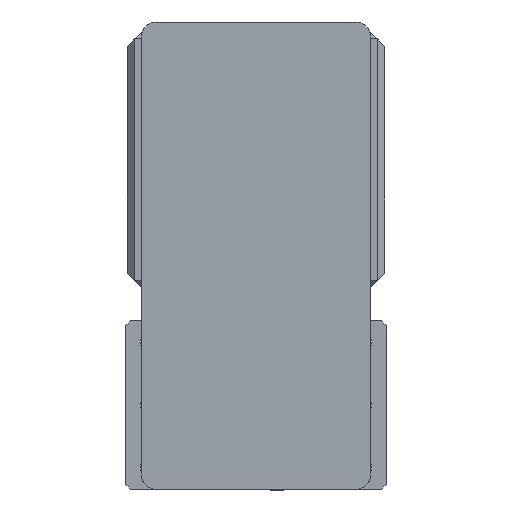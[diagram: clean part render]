
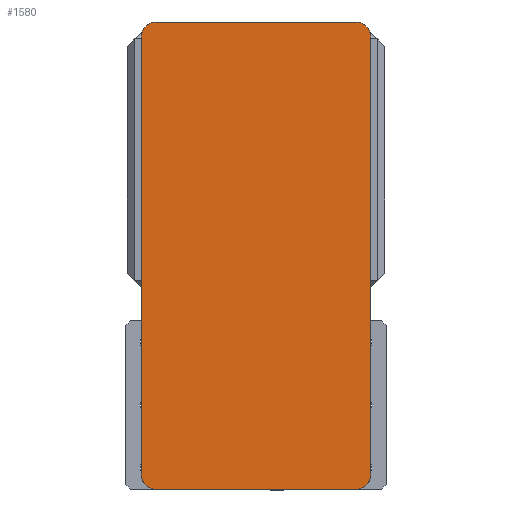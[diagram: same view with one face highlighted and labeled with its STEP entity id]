
A CAD part, left-side view. The second image highlights one B-rep face of the part: STEP entity #1580.
In plain terms, the highlighted planar face has unit normal (-1, 0, 0) as drawn and (0, 0, 1) by its records, which use the part's own axes.
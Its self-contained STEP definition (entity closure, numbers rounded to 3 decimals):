
#8 = CARTESIAN_POINT ( 'NONE',  ( 75., -142.5, 105. ) ) ;
#170 = ORIENTED_EDGE ( 'NONE', *, *, #3356, .T. ) ;
#289 = ORIENTED_EDGE ( 'NONE', *, *, #944, .T. ) ;
#308 = EDGE_LOOP ( 'NONE', ( #362, #9702, #3086, #5187, #289, #6371, #170, #8271 ) ) ;
#362 = ORIENTED_EDGE ( 'NONE', *, *, #6381, .T. ) ;
#519 = VERTEX_POINT ( 'NONE', #2429 ) ;
#634 = CARTESIAN_POINT ( 'NONE',  ( 75., 142.5, 105. ) ) ;
#648 = VERTEX_POINT ( 'NONE', #3884 ) ;
#845 = FACE_OUTER_BOUND ( 'NONE', #308, .T. ) ;
#944 = EDGE_CURVE ( 'NONE', #10324, #519, #9099, .T. ) ;
#1012 = LINE ( 'NONE', #7469, #7432 ) ;
#1144 = VERTEX_POINT ( 'NONE', #8 ) ;
#1231 = CARTESIAN_POINT ( 'NONE',  ( -75., 152.5, 105. ) ) ;
#1497 = CARTESIAN_POINT ( 'NONE',  ( -75., -152.5, 105. ) ) ;
#1536 = CIRCLE ( 'NONE', #7456, 10. ) ;
#1580 = ADVANCED_FACE ( 'NONE', ( #845 ), #2120, .T. ) ;
#1590 = DIRECTION ( 'NONE',  ( 0., 1., 0. ) ) ;
#1915 = AXIS2_PLACEMENT_3D ( 'NONE', #7586, #2602, #8388 ) ;
#1977 = VERTEX_POINT ( 'NONE', #3001 ) ;
#2120 = PLANE ( 'NONE',  #8151 ) ;
#2395 = VERTEX_POINT ( 'NONE', #7777 ) ;
#2429 = CARTESIAN_POINT ( 'NONE',  ( -65., 152.5, 105. ) ) ;
#2542 = CIRCLE ( 'NONE', #10291, 10. ) ;
#2602 = DIRECTION ( 'NONE',  ( 0., 0., 1. ) ) ;
#2984 = DIRECTION ( 'NONE',  ( 0., 0., 1. ) ) ;
#3001 = CARTESIAN_POINT ( 'NONE',  ( 65., -152.5, 105. ) ) ;
#3066 = CARTESIAN_POINT ( 'NONE',  ( 65., 152.5, 105. ) ) ;
#3086 = ORIENTED_EDGE ( 'NONE', *, *, #9272, .T. ) ;
#3190 = DIRECTION ( 'NONE',  ( 0., 0., 1. ) ) ;
#3356 = EDGE_CURVE ( 'NONE', #2395, #648, #7435, .T. ) ;
#3855 = DIRECTION ( 'NONE',  ( 1., 0., 0. ) ) ;
#3884 = CARTESIAN_POINT ( 'NONE',  ( -75., -142.5, 105. ) ) ;
#3895 = CARTESIAN_POINT ( 'NONE',  ( 65., 142.5, 105. ) ) ;
#3944 = DIRECTION ( 'NONE',  ( 0., 0., 1. ) ) ;
#4289 = DIRECTION ( 'NONE',  ( -1., 0., 0. ) ) ;
#4704 = AXIS2_PLACEMENT_3D ( 'NONE', #3895, #9670, #4751 ) ;
#4751 = DIRECTION ( 'NONE',  ( 1., 0., 0. ) ) ;
#5187 = ORIENTED_EDGE ( 'NONE', *, *, #8472, .T. ) ;
#5243 = VECTOR ( 'NONE', #8764, 1000. ) ;
#5698 = VECTOR ( 'NONE', #9853, 1000. ) ;
#5936 = VERTEX_POINT ( 'NONE', #7721 ) ;
#6239 = EDGE_CURVE ( 'NONE', #648, #5936, #2542, .T. ) ;
#6371 = ORIENTED_EDGE ( 'NONE', *, *, #8570, .T. ) ;
#6381 = EDGE_CURVE ( 'NONE', #5936, #1977, #10076, .T. ) ;
#6906 = VECTOR ( 'NONE', #4289, 1000. ) ;
#7432 = VECTOR ( 'NONE', #1590, 1000. ) ;
#7435 = LINE ( 'NONE', #1231, #5243 ) ;
#7456 = AXIS2_PLACEMENT_3D ( 'NONE', #8125, #3190, #8993 ) ;
#7469 = CARTESIAN_POINT ( 'NONE',  ( 75., 152.5, 105. ) ) ;
#7586 = CARTESIAN_POINT ( 'NONE',  ( 65., -142.5, 105. ) ) ;
#7593 = EDGE_CURVE ( 'NONE', #1977, #1144, #10171, .T. ) ;
#7601 = CARTESIAN_POINT ( 'NONE',  ( -75., 152.5, 105. ) ) ;
#7721 = CARTESIAN_POINT ( 'NONE',  ( -65., -152.5, 105. ) ) ;
#7777 = CARTESIAN_POINT ( 'NONE',  ( -75., 142.5, 105. ) ) ;
#8125 = CARTESIAN_POINT ( 'NONE',  ( -65., 142.5, 105. ) ) ;
#8151 = AXIS2_PLACEMENT_3D ( 'NONE', #9581, #2984, #3855 ) ;
#8271 = ORIENTED_EDGE ( 'NONE', *, *, #6239, .T. ) ;
#8388 = DIRECTION ( 'NONE',  ( 1., 0., 0. ) ) ;
#8472 = EDGE_CURVE ( 'NONE', #10411, #10324, #8992, .T. ) ;
#8570 = EDGE_CURVE ( 'NONE', #519, #2395, #1536, .T. ) ;
#8764 = DIRECTION ( 'NONE',  ( 0., -1., 0. ) ) ;
#8894 = CARTESIAN_POINT ( 'NONE',  ( -65., -142.5, 105. ) ) ;
#8992 = CIRCLE ( 'NONE', #4704, 10. ) ;
#8993 = DIRECTION ( 'NONE',  ( 1., 0., 0. ) ) ;
#9099 = LINE ( 'NONE', #7601, #6906 ) ;
#9272 = EDGE_CURVE ( 'NONE', #1144, #10411, #1012, .T. ) ;
#9581 = CARTESIAN_POINT ( 'NONE',  ( 0., 0., 105. ) ) ;
#9670 = DIRECTION ( 'NONE',  ( 0., 0., 1. ) ) ;
#9702 = ORIENTED_EDGE ( 'NONE', *, *, #7593, .T. ) ;
#9709 = DIRECTION ( 'NONE',  ( 1., 0., 0. ) ) ;
#9853 = DIRECTION ( 'NONE',  ( 1., 0., 0. ) ) ;
#10076 = LINE ( 'NONE', #1497, #5698 ) ;
#10171 = CIRCLE ( 'NONE', #1915, 10. ) ;
#10291 = AXIS2_PLACEMENT_3D ( 'NONE', #8894, #3944, #9709 ) ;
#10324 = VERTEX_POINT ( 'NONE', #3066 ) ;
#10411 = VERTEX_POINT ( 'NONE', #634 ) ;
